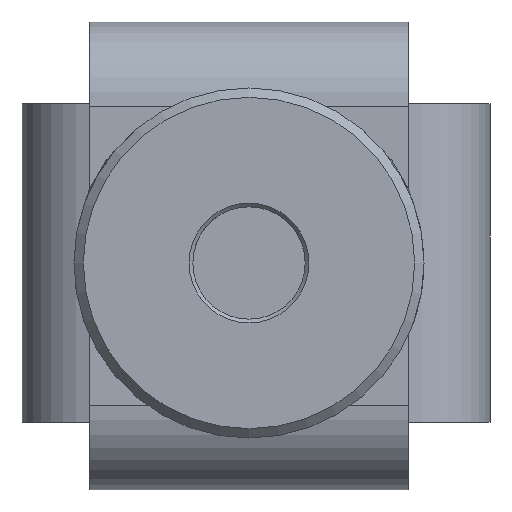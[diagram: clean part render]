
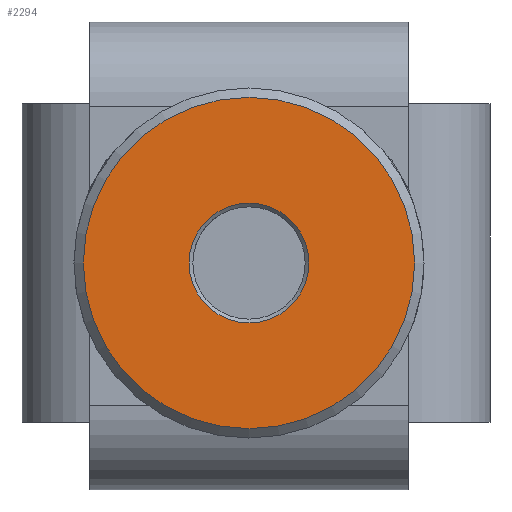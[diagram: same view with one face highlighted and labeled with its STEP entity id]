
A CAD part, front view. The second image highlights one B-rep face of the part: STEP entity #2294.
In plain terms, the highlighted planar face has unit normal (0, -1, 0).
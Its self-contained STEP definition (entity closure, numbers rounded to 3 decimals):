
#389=PLANE('',#2486);
#467=FACE_BOUND('',#734,.T.);
#561=FACE_OUTER_BOUND('',#733,.T.);
#733=EDGE_LOOP('',(#1620));
#734=EDGE_LOOP('',(#1621));
#920=CIRCLE('',#2483,3.2);
#922=CIRCLE('',#2487,8.85);
#1055=VERTEX_POINT('',#3614);
#1057=VERTEX_POINT('',#3620);
#1271=EDGE_CURVE('',#1055,#1055,#920,.T.);
#1273=EDGE_CURVE('',#1057,#1057,#922,.T.);
#1620=ORIENTED_EDGE('',*,*,#1273,.F.);
#1621=ORIENTED_EDGE('',*,*,#1271,.F.);
#2294=ADVANCED_FACE('',(#561,#467),#389,.F.);
#2483=AXIS2_PLACEMENT_3D('',#3615,#2871,#2872);
#2486=AXIS2_PLACEMENT_3D('',#3619,#2877,#2878);
#2487=AXIS2_PLACEMENT_3D('',#3621,#2879,#2880);
#2871=DIRECTION('center_axis',(0.,-1.,0.));
#2872=DIRECTION('ref_axis',(-0.5,0.,-0.866));
#2877=DIRECTION('center_axis',(0.,1.,0.));
#2878=DIRECTION('ref_axis',(-0.5,0.,-0.866));
#2879=DIRECTION('center_axis',(0.,1.,0.));
#2880=DIRECTION('ref_axis',(-0.5,0.,-0.866));
#3614=CARTESIAN_POINT('',(-45.301,0.046,11.271));
#3615=CARTESIAN_POINT('Origin',(-46.901,0.046,8.5));
#3619=CARTESIAN_POINT('Origin',(-46.901,0.046,8.5));
#3620=CARTESIAN_POINT('',(-42.476,0.046,16.164));
#3621=CARTESIAN_POINT('Origin',(-46.901,0.046,8.5));
